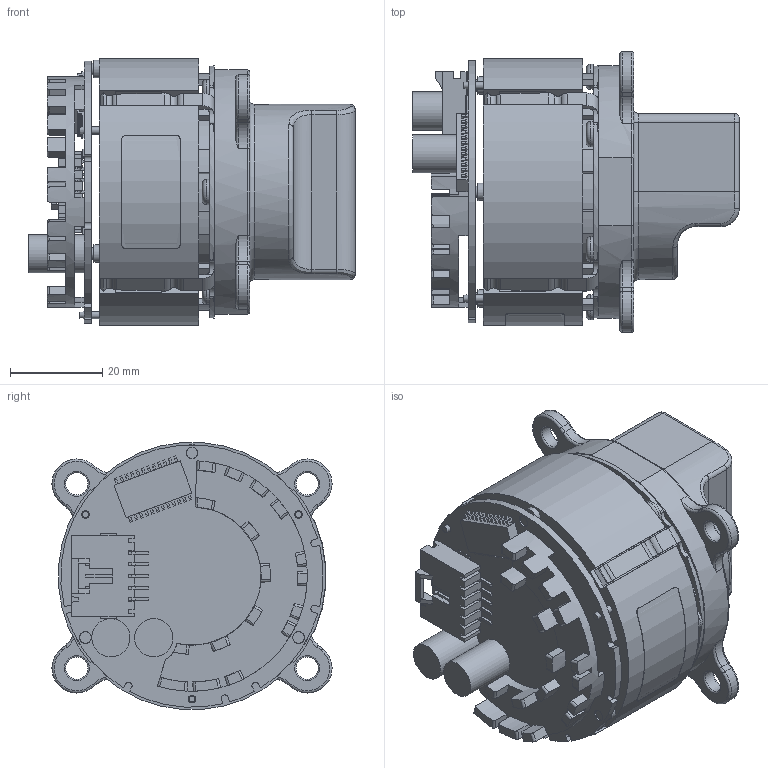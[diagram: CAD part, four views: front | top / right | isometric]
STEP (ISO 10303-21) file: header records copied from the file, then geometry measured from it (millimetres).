
FILE_DESCRIPTION (( 'STEP AP214' ), '1' );
FILE_NAME ('Cerotor 1500 - Smart BLDC Motor.STEP', '2020-04-23T14:02:08', ( '' ), ( '' ), 'SwSTEP 2.0', 'SolidWorks 2019', '' );
FILE_SCHEMA (( 'AUTOMOTIVE_DESIGN' ));
Length unit declared in the file: millimetre
Products named in the file (17): PCB^PD02-MA-00B; Label^PD02-MA-00B; PD02-MA-00B; PD37-BO-0; Lam^PD02-MA-00B; Connector^PD02-MA-00B; Mol^PD02-MA-00B; Cerotor 1500 - Smart BLDC Motor; MB0114; Cap^PD02-MA-00B; PD37-BB-0; Pins^PD02-MA-00B; Processor^PD02-MA-00B; HS^PD02-MA-00B; PD02-CU-00; PD37-PU-0; PD03-SC-0
Assembly tree (24 placements, depth 4):
  Cerotor 1500 - Smart BLDC Motor
    PD37-PU-0
      PD03-SC-0  x6
      PD02-CU-00
      MB0114
      PD37-BO-0
        PD37-BB-0
    PD02-MA-00B
      Lam^PD02-MA-00B
      Mol^PD02-MA-00B
      PCB^PD02-MA-00B
      Pins^PD02-MA-00B  x3
      Label^PD02-MA-00B
      HS^PD02-MA-00B
      Cap^PD02-MA-00B  x2
      Connector^PD02-MA-00B
      Processor^PD02-MA-00B
Bounding box: 70.85 x 60.8 x 57.92 mm (x, y, z)
Volume: 76789.3 mm3; surface area: 63513.1 mm2
Topology: 21 solids, 21 shells, 1693 faces, 4661 edges, 3078 vertices
Faces by surface type: plane 1027, cylinder 556, torus 70, cone 21, bspline 19
Full cylindrical faces by diameter (mm): 1.6 x18, 1.7 x3, 2.4 x6, 2.5 x9, 2.55 x3, 3 x2, 3.2 x2, 3.3 x6, 3.8 x3, 4.8 x4, 5.5 x6, 6.5 x2, 8.3 x2, 8.8 x2, 15 x2, 26 x1, 36.1 x1, 38 x1, 42.7 x1, 42.73 x1, 49.1 x1
Entity records: 58039 total; most frequent: CARTESIAN_POINT 11618, ORIENTED_EDGE 8900, DIRECTION 8750, EDGE_CURVE 4450, LINE 3128, VECTOR 3128, VERTEX_POINT 2993, AXIS2_PLACEMENT_3D 2811
